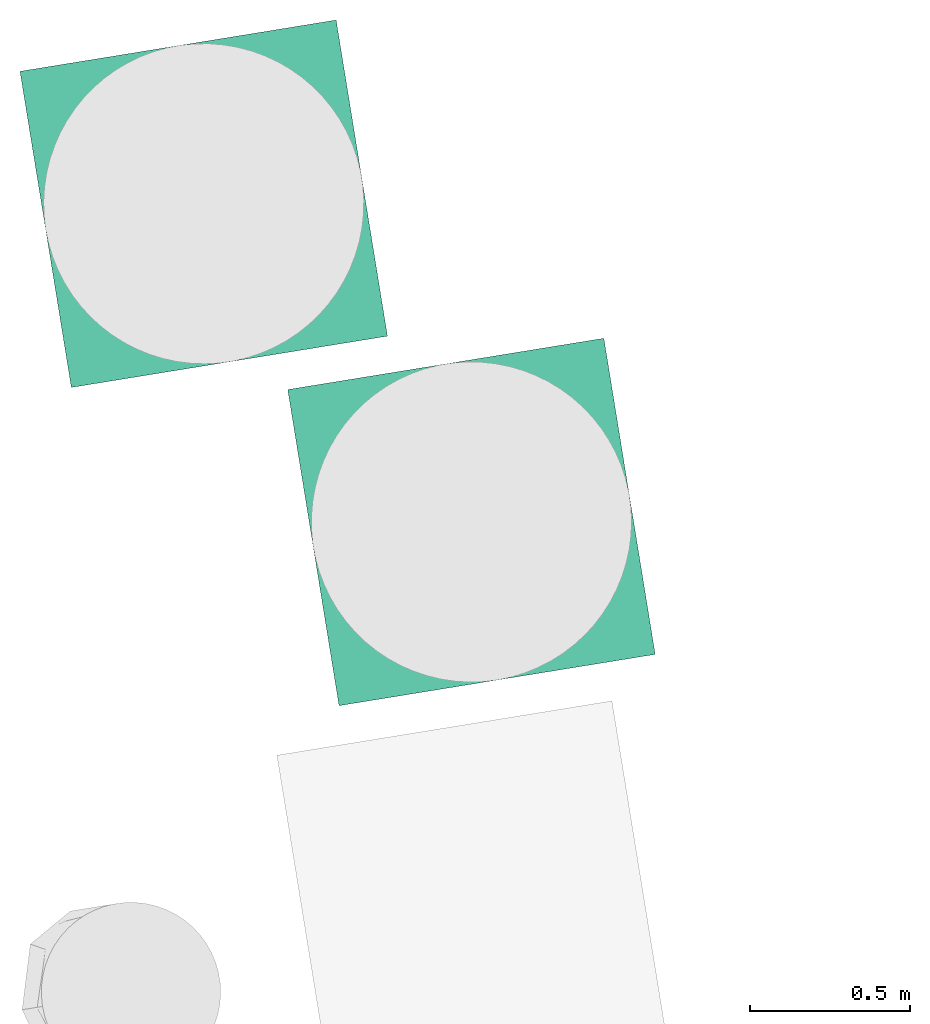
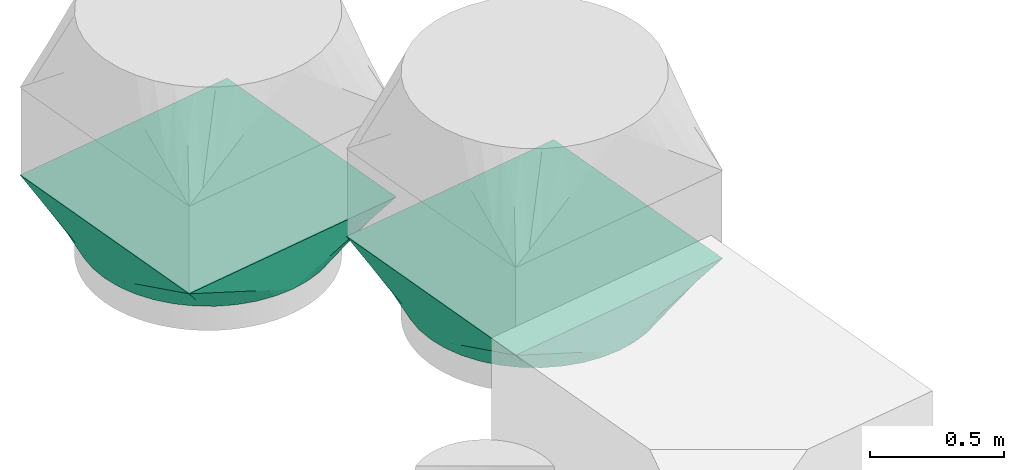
# One storey, part 5 of 6: 2 flow fittings.
"""IFC2X3 building model written with IfcOpenShell, lengths in millimetres."""

from ifc_helpers import new_model, entity, si_unit, converted_unit, derived_unit, direction, frame, origin, origin_with_axes, place, context, subcontext, project, spatial, faceted_brep, source, transform, mapped, material, type_object, element, save


model = new_model("IFC2X3")

# Units and contexts
model_context = context("Model", 3, precision=0.01, world=origin(), true_north=direction((6.12323399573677e-17, 1.0)))
plan_context = context("Plan", 3, precision=1e-05, world=origin_with_axes())
body_context = subcontext(model_context, "Body", "Model", "MODEL_VIEW")
ifc_project = project(units=[converted_unit("PLANEANGLEUNIT", "DEGREE", entity("IfcPositiveLengthMeasure", 0.0174532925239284), si_unit("PLANEANGLEUNIT", "RADIAN"), dimensions=[0, 0, 0, 0, 0, 0, 0]), si_unit("AREAUNIT", "SQUARE_METRE"), si_unit("LENGTHUNIT", "METRE", prefix="MILLI"), si_unit("MASSUNIT", "GRAM", prefix="KILO"), si_unit("POWERUNIT", "WATT"), si_unit("PRESSUREUNIT", "PASCAL", prefix="KILO"), si_unit("FORCEUNIT", "NEWTON", prefix="KILO"), si_unit("ELECTRICVOLTAGEUNIT", "VOLT"), si_unit("ELECTRICCURRENTUNIT", "AMPERE"), si_unit("THERMODYNAMICTEMPERATUREUNIT", "DEGREE_CELSIUS"), si_unit("TIMEUNIT", "SECOND"), si_unit("VOLUMEUNIT", "CUBIC_METRE"), derived_unit("LINEARVELOCITYUNIT", [(si_unit("LENGTHUNIT", "METRE"), 1), (si_unit("TIMEUNIT", "SECOND"), -1)]), derived_unit("VOLUMETRICFLOWRATEUNIT", [(si_unit("VOLUMEUNIT", "CUBIC_METRE"), 1), (si_unit("TIMEUNIT", "SECOND"), -1)]), derived_unit("THERMALTRANSMITTANCEUNIT", [(si_unit("POWERUNIT", "WATT"), 1), (si_unit("THERMODYNAMICTEMPERATUREUNIT", "KELVIN"), -1), (si_unit("AREAUNIT", "SQUARE_METRE"), -1)]), derived_unit("SOUNDPRESSUREUNIT", [(si_unit("PRESSUREUNIT", "PASCAL"), 1)])], contexts=[model_context, plan_context])

# Site, building, storey
site_placement = place(None, frame((-0.00071070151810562, 0.00438415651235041, 0.0), z_axis=(0.0, 0.0, 1.0), x_axis=(-0.160236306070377, 0.987078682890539, 0.0)))
site = spatial("IfcSite", under=ifc_project, at=site_placement, Name="Default", CompositionType="ELEMENT")
building_placement = place(site_placement, origin_with_axes())
building = spatial("IfcBuilding", under=site, at=building_placement, CompositionType="ELEMENT")
storey_placement = place(building_placement, frame((0.0, 0.0, 48160.0), z_axis=(0.0, 0.0, 1.0), x_axis=(1.0, 0.0, 0.0)))
storey = spatial("IfcBuildingStorey", under=building, at=storey_placement, Name="Nivå C", CompositionType="ELEMENT", Elevation=48160.0)

# Flow fittings
ifc_material = material(Name="Material_Duct")
duct_fitting_type_1 = type_object("IfcDuctFittingType", Name="magicirc_multi_shape_trans_001:magicirc_multi_shape_trans_001", PredefinedType="NOTDEFINED", material=ifc_material)
shared_shape_1 = source(origin(), body_context, "Body", "Brep", [
    faceted_brep([(200.0, -293.892626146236, 404.508497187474), (200.0, -353.553390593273, 353.553390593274), (200.0, -404.508497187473, 293.892626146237), (200.0, -445.503262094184, 226.995249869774), (200.0, -475.528258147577, 154.508497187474), (200.0, -484.686214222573, 116.362864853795), (200.0, -493.844170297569, 78.2172325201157), (200.0, -496.200105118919, 48.2822423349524), (200.0, -500.0, 0.0), (200.0, -496.200105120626, -48.2822423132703), (200.0, -493.844170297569, -78.2172325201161), (200.0, -484.686214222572, -116.362864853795), (200.0, -475.528258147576, -154.508497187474), (200.0, -445.503262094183, -226.995249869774), (200.0, -404.508497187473, -293.892626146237), (200.0, -353.553390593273, -353.553390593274), (200.0, -293.892626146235, -404.508497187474), (200.0, -226.995249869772, -445.503262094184), (200.0, -154.508497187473, -475.528258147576), (200.0, -116.362864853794, -484.686214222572), (200.0, -78.2172325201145, -493.844170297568), (200.0, -48.2822423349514, -496.200105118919), (200.0, 0.0, -500.0), (200.0, 48.2822423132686, -496.200105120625), (200.0, 78.2172325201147, -493.844170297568), (200.0, 116.362864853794, -484.686214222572), (200.0, 154.508497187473, -475.528258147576), (200.0, 226.995249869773, -445.503262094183), (200.0, 293.892626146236, -404.508497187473), (200.0, 353.553390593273, -353.553390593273), (200.0, 404.508497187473, -293.892626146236), (200.0, 445.503262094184, -226.995249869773), (200.0, 475.528258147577, -154.508497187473), (200.0, 484.686214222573, -116.362864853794), (200.0, 493.844170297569, -78.2172325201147), (200.0, 496.200105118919, -48.2822423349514), (200.0, 500.0, 0.0), (200.0, 496.200105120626, 48.282242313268), (200.0, 493.844170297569, 78.2172325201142), (200.0, 484.686214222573, 116.362864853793), (200.0, 475.528258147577, 154.508497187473), (200.0, 445.503262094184, 226.995249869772), (200.0, 404.508497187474, 293.892626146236), (200.0, 353.553390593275, 353.553390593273), (200.0, 293.892626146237, 404.508497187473), (200.0, 226.995249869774, 445.503262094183), (200.0, 154.508497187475, 475.528258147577), (200.0, 116.362864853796, 484.686214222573), (200.0, 78.2172325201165, 493.844170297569), (200.0, 48.2822423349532, 496.200105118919), (200.0, 0.0, 500.0), (200.0, -48.2822423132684, 496.200105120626), (200.0, -78.2172325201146, 493.844170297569), (200.0, -116.362864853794, 484.686214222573), (200.0, -154.508497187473, 475.528258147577), (200.0, -226.995249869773, 445.503262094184), (0.0, -500.0, 500.0), (0.0, 500.0, 500.0), (0.0, 500.0, -500.0), (0.0, -500.0, -500.0), (26.0285566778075, -434.928608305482, 500.0), (100.0, -415.753070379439, 437.152129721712), (104.11422671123, -239.714433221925, 500.0), (78.0856700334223, -304.785824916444, 500.0), (52.0571133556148, -369.857216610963, 500.0), (152.057111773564, -500.0, 119.857220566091), (128.085667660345, -500.0, 179.785830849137), (176.028556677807, -59.9286083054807, 500.0), (164.042835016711, -89.8929124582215, 500.0), (152.057113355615, -119.857216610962, 500.0), (128.085670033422, -179.785824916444, 500.0), (104.114223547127, -500.0, 239.714441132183), (52.0571117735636, -500.0, 369.857220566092), (78.0856676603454, -500.0, 304.785830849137), (26.0285558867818, -500.0, 434.928610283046), (164.042833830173, -500.0, 89.8929154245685), (176.028555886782, -500.0, 59.9286102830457), (26.0285566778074, -500.0, -434.928608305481), (52.0571133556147, -500.0, -369.857216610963), (78.0856700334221, -500.0, -304.785824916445), (104.11422671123, -500.0, -239.714433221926), (128.085670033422, -500.0, -179.785824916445), (152.057113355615, -500.0, -119.857216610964), (164.042835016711, -500.0, -89.892912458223), (176.028556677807, -500.0, -59.9286083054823), (100.0, -437.152129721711, -415.753070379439), (152.057111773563, -119.857220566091, -500.0), (128.085667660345, -179.785830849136, -500.0), (104.114223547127, -239.714441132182, -500.0), (52.0571117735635, -369.857220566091, -500.0), (78.0856676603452, -304.785830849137, -500.0), (26.0285558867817, -434.928610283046, -500.0), (164.042833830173, -89.8929154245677, -500.0), (176.028555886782, -59.9286102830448, -500.0), (26.0285566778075, 434.92860830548, -500.0), (52.0571133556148, 369.857216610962, -500.0), (78.0856700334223, 304.785824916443, -500.0), (104.11422671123, 239.714433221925, -500.0), (128.085670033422, 179.785824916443, -500.0), (152.057113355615, 119.857216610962, -500.0), (164.042835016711, 89.8929124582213, -500.0), (176.028556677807, 59.9286083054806, -500.0), (100.0, 415.753070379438, -437.15212972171), (152.057111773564, 500.0, -119.85722056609), (128.085667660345, 500.0, -179.785830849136), (104.114223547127, 500.0, -239.714441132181), (52.0571117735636, 500.0, -369.85722056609), (78.0856676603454, 500.0, -304.785830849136), (26.0285558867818, 500.0, -434.928610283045), (164.042833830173, 500.0, -89.8929154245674), (176.028555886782, 500.0, -59.9286102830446), (26.0285566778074, 500.0, 434.928608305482), (52.0571133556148, 500.0, 369.857216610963), (78.0856700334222, 500.0, 304.785824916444), (104.11422671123, 500.0, 239.714433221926), (128.085670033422, 500.0, 179.785824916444), (152.057113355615, 500.0, 119.857216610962), (164.042835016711, 500.0, 89.8929124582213), (176.028556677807, 500.0, 59.9286083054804), (100.0, 437.152129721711, 415.753070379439), (152.057111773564, 119.857220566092, 500.0), (128.085667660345, 179.785830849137, 500.0), (104.114223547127, 239.714441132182, 500.0), (52.0571117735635, 369.857220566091, 500.0), (78.0856676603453, 304.785830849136, 500.0), (26.0285558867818, 434.928610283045, 500.0), (164.042833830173, 89.8929154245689, 500.0), (176.028555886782, 59.9286102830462, 500.0)], [[[0, 1, 2, 3, 4, 5, 6, 7, 8, 9, 10, 11, 12, 13, 14, 15, 16, 17, 18, 19, 20, 21, 22, 23, 24, 25, 26, 27, 28, 29, 30, 31, 32, 33, 34, 35, 36, 37, 38, 39, 40, 41, 42, 43, 44, 45, 46, 47, 48, 49, 50, 51, 52, 53, 54, 55]], [[56, 57, 58, 59]], [[0, 60, 61]], [[55, 62, 63, 64]], [[65, 5, 66]], [[52, 51, 50, 67, 68, 69]], [[53, 52, 69]], [[54, 62, 55]], [[53, 70, 54]], [[4, 71, 66]], [[66, 5, 4]], [[60, 56, 61]], [[3, 72, 73, 71]], [[70, 62, 54]], [[61, 74, 1]], [[4, 3, 71]], [[75, 76, 8, 7, 6, 65]], [[2, 74, 72]], [[64, 0, 55]], [[65, 6, 5]], [[70, 53, 69]], [[0, 64, 60]], [[74, 2, 1]], [[0, 61, 1]], [[61, 56, 74]], [[72, 3, 2]], [[76, 75, 65, 66, 71, 73, 72, 74, 56, 59, 77, 78, 79, 80, 81, 82, 83, 84, 8]], [[14, 77, 85]], [[13, 80, 79, 78]], [[86, 19, 87]], [[10, 9, 8, 84, 83, 82]], [[11, 10, 82]], [[12, 80, 13]], [[11, 81, 12]], [[18, 88, 87]], [[87, 19, 18]], [[77, 59, 85]], [[17, 89, 90, 88]], [[81, 80, 12]], [[85, 91, 15]], [[18, 17, 88]], [[92, 93, 22, 21, 20, 86]], [[16, 91, 89]], [[78, 14, 13]], [[86, 20, 19]], [[81, 11, 82]], [[14, 78, 77]], [[91, 16, 15]], [[14, 85, 15]], [[85, 59, 91]], [[89, 17, 16]], [[59, 58, 94, 95, 96, 97, 98, 99, 100, 101, 22, 93, 92, 86, 87, 88, 90, 89, 91]], [[28, 94, 102]], [[27, 97, 96, 95]], [[103, 33, 104]], [[24, 23, 22, 101, 100, 99]], [[25, 24, 99]], [[26, 97, 27]], [[25, 98, 26]], [[32, 105, 104]], [[104, 33, 32]], [[94, 58, 102]], [[31, 106, 107, 105]], [[98, 97, 26]], [[102, 108, 29]], [[32, 31, 105]], [[109, 110, 36, 35, 34, 103]], [[30, 108, 106]], [[95, 28, 27]], [[103, 34, 33]], [[98, 25, 99]], [[28, 95, 94]], [[108, 30, 29]], [[28, 102, 29]], [[102, 58, 108]], [[106, 31, 30]], [[58, 57, 111, 112, 113, 114, 115, 116, 117, 118, 36, 110, 109, 103, 104, 105, 107, 106, 108]], [[42, 111, 119]], [[41, 114, 113, 112]], [[120, 47, 121]], [[38, 37, 36, 118, 117, 116]], [[39, 38, 116]], [[40, 114, 41]], [[39, 115, 40]], [[46, 122, 121]], [[121, 47, 46]], [[111, 57, 119]], [[45, 123, 124, 122]], [[115, 114, 40]], [[119, 125, 43]], [[46, 45, 122]], [[126, 127, 50, 49, 48, 120]], [[44, 125, 123]], [[112, 42, 41]], [[120, 48, 47]], [[115, 39, 116]], [[42, 112, 111]], [[125, 44, 43]], [[42, 119, 43]], [[119, 57, 125]], [[123, 45, 44]], [[57, 56, 60, 64, 63, 62, 70, 69, 68, 67, 50, 127, 126, 120, 121, 122, 124, 123, 125]]]),
])
flow_fitting_1_placement = place(storey_placement, frame((777903.00966992, -596321.533015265, 2379.24630692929), z_axis=(0.0, 1.0, 0.0), x_axis=(0.0, 0.0, -1.0)))
element("IfcFlowFitting", 1, at=flow_fitting_1_placement, inside=storey, type_object=duct_fitting_type_1, material=ifc_material, Name="magicirc_multi_shape_trans_001:magicirc_multi_shape_trans_001", ObjectType="magicirc_multi_shape_trans_001:magicirc_multi_shape_trans_001", context=body_context, shape_type="MappedRepresentation", body=[
    mapped(shared_shape_1, transform((0.0, 0.0, 0.0), scale=1.0)),
])
duct_fitting_type_2 = type_object("IfcDuctFittingType", Name="magicirc_multi_shape_trans_001:magicirc_multi_shape_trans_001", PredefinedType="NOTDEFINED", material=ifc_material)
shared_shape_2 = source(origin(), body_context, "Body", "Brep", [
    faceted_brep([(200.0, -293.892742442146, 404.508475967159), (200.0, -353.553506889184, 353.553369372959), (200.0, -404.508613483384, 293.892604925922), (200.0, -445.503378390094, 226.995228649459), (200.0, -475.528374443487, 154.508475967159), (200.0, -484.686330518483, 116.36284363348), (200.0, -493.844286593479, 78.217211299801), (200.0, -496.20022141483, 48.2822211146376), (200.0, -500.00011629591, -2.12203131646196e-05), (200.0, -496.200221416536, -48.2822635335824), (200.0, -493.844286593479, -78.2172537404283), (200.0, -484.686330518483, -116.362886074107), (200.0, -475.528374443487, -154.508518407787), (200.0, -445.503378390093, -226.995271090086), (200.0, -404.508613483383, -293.892647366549), (200.0, -353.553506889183, -353.553411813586), (200.0, -293.892742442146, -404.508518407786), (200.0, -226.995366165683, -445.503283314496), (200.0, -154.508613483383, -475.528279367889), (200.0, -116.362981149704, -484.686235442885), (200.0, -78.2173488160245, -493.844191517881), (200.0, -48.2823586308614, -496.200126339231), (200.0, -0.000116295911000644, -500.000021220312), (200.0, 48.2821260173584, -496.200126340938), (200.0, 78.2171162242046, -493.844191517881), (200.0, 116.362748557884, -484.686235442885), (200.0, 154.508380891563, -475.528279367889), (200.0, 226.995133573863, -445.503283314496), (200.0, 293.892509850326, -404.508518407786), (200.0, 353.553274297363, -353.553411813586), (200.0, 404.508380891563, -293.892647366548), (200.0, 445.503145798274, -226.995271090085), (200.0, 475.528141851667, -154.508518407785), (200.0, 484.686097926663, -116.362886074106), (200.0, 493.844054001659, -78.2172537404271), (200.0, 496.199988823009, -48.2822635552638), (200.0, 499.99988370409, -2.12203160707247e-05), (200.0, 496.199988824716, 48.2822210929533), (200.0, 493.844054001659, 78.2172112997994), (200.0, 484.686097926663, 116.362843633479), (200.0, 475.528141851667, 154.508475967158), (200.0, 445.503145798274, 226.995228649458), (200.0, 404.508380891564, 293.892604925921), (200.0, 353.553274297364, 353.553369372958), (200.0, 293.892509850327, 404.508475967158), (200.0, 226.995133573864, 445.503240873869), (200.0, 154.508380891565, 475.528236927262), (200.0, 116.362748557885, 484.686193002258), (200.0, 78.2171162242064, 493.844149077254), (200.0, 48.2821260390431, 496.200083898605), (200.0, -0.000116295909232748, 499.999978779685), (200.0, -48.2823586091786, 496.200083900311), (200.0, -78.2173488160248, 493.844149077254), (200.0, -116.362981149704, 484.686193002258), (200.0, -154.508613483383, 475.528236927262), (200.0, -226.995366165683, 445.503240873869), (0.0, -500.0, 500.0), (0.0, 500.0, 500.0), (0.0, 500.0, -500.0), (0.0, -500.0, -500.0), (26.0285566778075, -434.928623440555, 499.99999723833), (100.0, -415.753128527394, 437.152119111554), (104.11422671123, -239.714493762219, 499.999988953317), (78.0856700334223, -304.785870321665, 499.999991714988), (52.0571133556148, -369.85724688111, 499.999994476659), (152.057111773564, -500.000088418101, 119.857204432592), (128.085667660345, -500.000074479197, 179.785817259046), (176.028556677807, -59.9287106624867, 499.999981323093), (164.042835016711, -89.8930078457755, 499.999982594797), (152.057113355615, -119.857305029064, 499.999983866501), (128.085670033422, -179.785899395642, 499.999986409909), (104.114223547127, -500.000060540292, 239.7144300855), (52.0571117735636, -500.000030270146, 369.85721504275), (78.0856676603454, -500.000045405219, 304.785822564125), (26.0285558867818, -500.000015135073, 434.928607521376), (164.042833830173, -500.000095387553, 89.8928980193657), (176.028555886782, -500.000102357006, 59.9285916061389), (26.0285566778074, -500.000015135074, -434.928611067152), (52.0571133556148, -500.000030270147, -369.857222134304), (78.0856700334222, -500.000045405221, -304.785833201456), (104.11422671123, -500.000060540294, -239.714444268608), (128.085670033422, -500.000074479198, -179.785838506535), (152.057113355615, -500.000088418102, -119.857232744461), (164.042835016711, -500.000095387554, -89.8929298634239), (176.028556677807, -500.000102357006, -59.928626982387), (100.0, -437.152187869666, -415.753080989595), (152.057111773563, -119.857308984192, -500.000016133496), (128.085667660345, -179.785905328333, -500.000013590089), (104.114223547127, -239.714501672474, -500.000011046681), (52.0571117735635, -369.857250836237, -500.00000552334), (78.0856676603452, -304.785876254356, -500.000008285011), (26.0285558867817, -434.928625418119, -500.00000276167), (164.042833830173, -89.893010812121, -500.0000174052), (176.028555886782, -59.9287126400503, -500.000018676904), (26.0285566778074, 434.928593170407, -500.00000276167), (52.0571133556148, 369.857186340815, -500.00000552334), (78.0856700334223, 304.785779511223, -500.000008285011), (104.11422671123, 239.714372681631, -500.000011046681), (128.085670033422, 179.785750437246, -500.000013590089), (152.057113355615, 119.85712819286, -500.000016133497), (164.042835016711, 89.8928170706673, -500.0000174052), (176.028556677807, 59.9285059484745, -500.000018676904), (100.0, 415.753012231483, -437.152140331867), (152.057111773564, 499.999911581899, -119.857236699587), (128.085667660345, 499.999925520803, -179.785844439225), (104.114223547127, 499.999939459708, -239.714452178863), (52.0571117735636, 499.999969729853, -369.857226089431), (78.0856676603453, 499.99995459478, -304.785839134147), (26.0285558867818, 499.999984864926, -434.928613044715), (164.042833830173, 499.999904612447, -89.8929328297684), (176.028555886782, 499.999897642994, -59.9286289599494), (26.0285566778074, 499.999984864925, 434.928605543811), (52.0571133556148, 499.999969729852, 369.857211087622), (78.0856700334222, 499.999954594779, 304.785816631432), (104.11422671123, 499.999939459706, 239.714422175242), (128.085670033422, 499.999925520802, 179.785811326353), (152.057113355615, 499.999911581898, 119.857200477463), (164.042835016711, 499.999904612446, 89.8928950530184), (176.028556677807, 499.999897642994, 59.9285896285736), (100.0, 437.152071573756, 415.753059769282), (152.057111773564, 119.857132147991, 499.999983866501), (128.085667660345, 179.78575636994, 499.999986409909), (104.114223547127, 239.71438059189, 499.999988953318), (52.0571117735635, 369.857190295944, 499.999994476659), (78.0856676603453, 304.785785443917, 499.999991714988), (26.0285558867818, 434.928595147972, 499.99999723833), (164.042833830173, 89.8928200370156, 499.999982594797), (176.028555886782, 59.9285079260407, 499.999981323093)], [[[0, 1, 2, 3, 4, 5, 6, 7, 8, 9, 10, 11, 12, 13, 14, 15, 16, 17, 18, 19, 20, 21, 22, 23, 24, 25, 26, 27, 28, 29, 30, 31, 32, 33, 34, 35, 36, 37, 38, 39, 40, 41, 42, 43, 44, 45, 46, 47, 48, 49, 50, 51, 52, 53, 54, 55]], [[56, 57, 58, 59]], [[0, 60, 61]], [[55, 62, 63, 64]], [[65, 5, 66]], [[52, 51, 50, 67, 68, 69]], [[53, 52, 69]], [[54, 62, 55]], [[53, 70, 54]], [[4, 71, 66]], [[66, 5, 4]], [[60, 56, 61]], [[3, 72, 73, 71]], [[70, 62, 54]], [[61, 74, 1]], [[4, 3, 71]], [[75, 76, 8, 7, 6, 65]], [[2, 74, 72]], [[64, 0, 55]], [[65, 6, 5]], [[70, 53, 69]], [[0, 64, 60]], [[74, 2, 1]], [[0, 61, 1]], [[61, 56, 74]], [[72, 3, 2]], [[76, 75, 65, 66, 71, 73, 72, 74, 56, 59, 77, 78, 79, 80, 81, 82, 83, 84, 8]], [[14, 77, 85]], [[13, 80, 79, 78]], [[86, 19, 87]], [[10, 9, 8, 84, 83, 82]], [[11, 10, 82]], [[12, 80, 13]], [[11, 81, 12]], [[18, 88, 87]], [[87, 19, 18]], [[77, 59, 85]], [[17, 89, 90, 88]], [[81, 80, 12]], [[85, 91, 15]], [[18, 17, 88]], [[92, 93, 22, 21, 20, 86]], [[16, 91, 89]], [[78, 14, 13]], [[86, 20, 19]], [[81, 11, 82]], [[14, 78, 77]], [[91, 16, 15]], [[14, 85, 15]], [[85, 59, 91]], [[89, 17, 16]], [[59, 58, 94, 95, 96, 97, 98, 99, 100, 101, 22, 93, 92, 86, 87, 88, 90, 89, 91]], [[28, 94, 102]], [[27, 97, 96, 95]], [[103, 33, 104]], [[24, 23, 22, 101, 100, 99]], [[25, 24, 99]], [[26, 97, 27]], [[25, 98, 26]], [[32, 105, 104]], [[104, 33, 32]], [[94, 58, 102]], [[31, 106, 107, 105]], [[98, 97, 26]], [[102, 108, 29]], [[32, 31, 105]], [[109, 110, 36, 35, 34, 103]], [[30, 108, 106]], [[95, 28, 27]], [[103, 34, 33]], [[98, 25, 99]], [[28, 95, 94]], [[108, 30, 29]], [[28, 102, 29]], [[102, 58, 108]], [[106, 31, 30]], [[58, 57, 111, 112, 113, 114, 115, 116, 117, 118, 36, 110, 109, 103, 104, 105, 107, 106, 108]], [[42, 111, 119]], [[41, 114, 113, 112]], [[120, 47, 121]], [[38, 37, 36, 118, 117, 116]], [[39, 38, 116]], [[40, 114, 41]], [[39, 115, 40]], [[46, 122, 121]], [[121, 47, 46]], [[111, 57, 119]], [[45, 123, 124, 122]], [[115, 114, 40]], [[119, 125, 43]], [[46, 45, 122]], [[126, 127, 50, 49, 48, 120]], [[44, 125, 123]], [[112, 42, 41]], [[120, 48, 47]], [[115, 39, 116]], [[42, 112, 111]], [[125, 44, 43]], [[42, 119, 43]], [[119, 57, 125]], [[123, 45, 44]], [[127, 126, 120, 121, 122, 124, 123, 125, 57, 56, 60, 64, 63, 62, 70, 69, 68, 67, 50]]]),
])
flow_fitting_2_placement = place(storey_placement, frame((779017.739855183, -595655.667976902, 2349.99970332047), z_axis=(0.999999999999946, -1.85369603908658e-17, 3.27967461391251e-07), x_axis=(3.27967461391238e-07, 2.83648476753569e-07, -0.999999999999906)))
element("IfcFlowFitting", 2, at=flow_fitting_2_placement, inside=storey, type_object=duct_fitting_type_2, material=ifc_material, Name="magicirc_multi_shape_trans_001:magicirc_multi_shape_trans_001", ObjectType="magicirc_multi_shape_trans_001:magicirc_multi_shape_trans_001", context=body_context, shape_type="MappedRepresentation", body=[
    mapped(shared_shape_2, transform((0.0, 0.0, 0.0), scale=1.0)),
])

save(model, "model.ifc")
